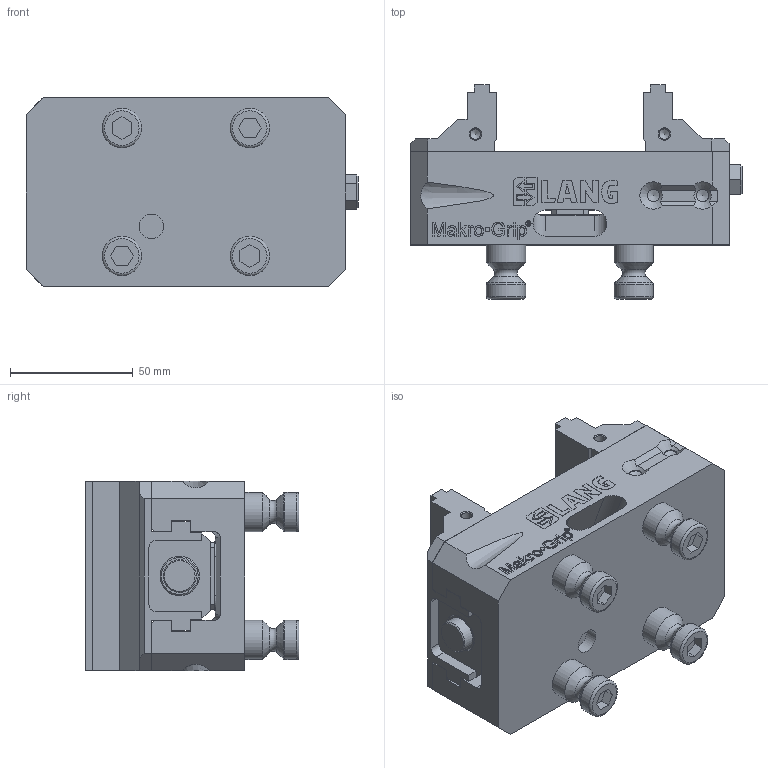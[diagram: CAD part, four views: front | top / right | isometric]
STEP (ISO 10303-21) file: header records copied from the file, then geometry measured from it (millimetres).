
FILE_DESCRIPTION (( 'STEP AP214' ), '1' );
FILE_NAME ('48120-77.STEP', '2020-02-04T12:34:32', ( '' ), ( '' ), 'SwSTEP 2.0', 'SolidWorks 2019', '' );
FILE_SCHEMA (( 'AUTOMOTIVE_DESIGN' ));
Length unit declared in the file: millimetre
Products named in the file (3): 48077-7720; 48120-77; Makro-Grip_48120-77
Assembly tree (3 placements, depth 2):
  48120-77
    Makro-Grip_48120-77
    48077-7720  x2
Bounding box: 135 x 87 x 77.2 mm (x, y, z)
Volume: 379857.9 mm3; surface area: 95955.1 mm2
Topology: 50 solids, 50 shells, 940 faces, 2404 edges, 1577 vertices
Faces by surface type: plane 637, bspline 192, cylinder 62, cone 37, torus 12
Full cylindrical faces by diameter (mm): 4.2 x4, 5 x4, 6.8 x4, 10 x1, 12 x8, 13.5 x1, 16 x12
Entity records: 43970 total; most frequent: CARTESIAN_POINT 14171, ORIENTED_EDGE 4296, DIRECTION 3223, EDGE_CURVE 2148, LINE 1597, VECTOR 1597, VERTEX_POINT 1453, EDGE_LOOP 997
